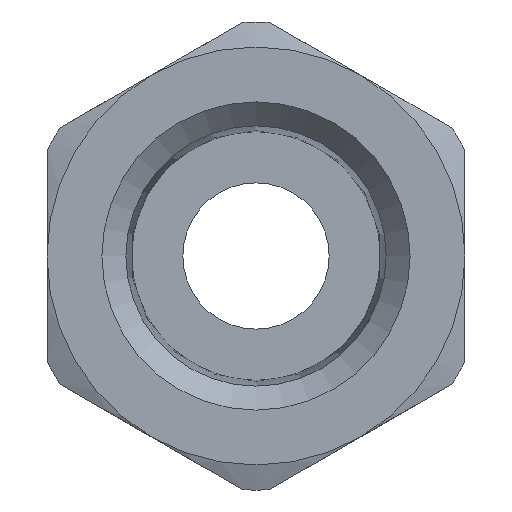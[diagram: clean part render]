
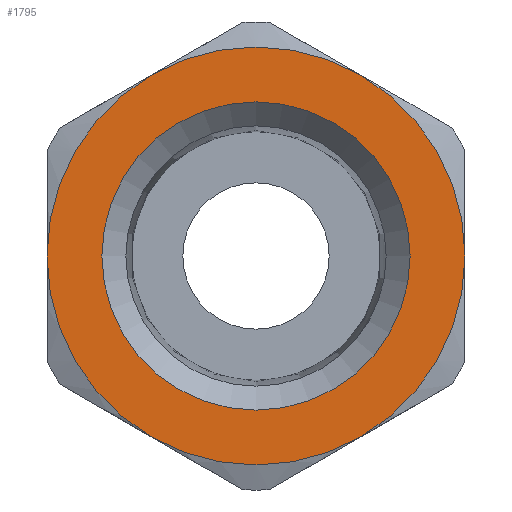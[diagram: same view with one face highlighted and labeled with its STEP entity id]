
A CAD part, front view. The second image highlights one B-rep face of the part: STEP entity #1795.
In plain terms, the highlighted planar face has unit normal (0, -1, 0).
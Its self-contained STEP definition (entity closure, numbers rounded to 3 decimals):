
#791=CARTESIAN_POINT('',(-7.144,0.,0.));
#792=VERTEX_POINT('',#791);
#927=CARTESIAN_POINT('',(-3.572,0.,6.187));
#928=VERTEX_POINT('',#927);
#1063=CARTESIAN_POINT('',(3.572,0.,6.187));
#1064=VERTEX_POINT('',#1063);
#1199=CARTESIAN_POINT('',(7.144,0.,0.));
#1200=VERTEX_POINT('',#1199);
#1335=CARTESIAN_POINT('',(3.572,0.,-6.187));
#1336=VERTEX_POINT('',#1335);
#1470=CARTESIAN_POINT('',(-3.572,0.,-6.187));
#1471=VERTEX_POINT('',#1470);
#1472=CARTESIAN_POINT('',(0.0,0.,0.0));
#1473=DIRECTION('',(0.0,-1.0,0.0));
#1474=DIRECTION('',(0.0,0.0,1.0));
#1475=AXIS2_PLACEMENT_3D('',#1472,#1473,#1474);
#1476=CIRCLE('',#1475,7.144);
#1477=EDGE_CURVE('',#1471,#1336,#1476,.T.);
#1502=CARTESIAN_POINT('',(0.0,0.,0.0));
#1503=DIRECTION('',(0.0,-1.0,0.0));
#1504=DIRECTION('',(0.0,0.0,1.0));
#1505=AXIS2_PLACEMENT_3D('',#1502,#1503,#1504);
#1506=CIRCLE('',#1505,7.144);
#1507=EDGE_CURVE('',#1336,#1200,#1506,.T.);
#1520=CARTESIAN_POINT('',(0.0,0.,0.0));
#1521=DIRECTION('',(0.0,-1.0,0.0));
#1522=DIRECTION('',(0.0,0.0,1.0));
#1523=AXIS2_PLACEMENT_3D('',#1520,#1521,#1522);
#1524=CIRCLE('',#1523,7.144);
#1525=EDGE_CURVE('',#1200,#1064,#1524,.T.);
#1538=CARTESIAN_POINT('',(0.0,0.,0.0));
#1539=DIRECTION('',(0.0,-1.0,0.0));
#1540=DIRECTION('',(0.0,0.0,1.0));
#1541=AXIS2_PLACEMENT_3D('',#1538,#1539,#1540);
#1542=CIRCLE('',#1541,7.144);
#1543=EDGE_CURVE('',#1064,#928,#1542,.T.);
#1556=CARTESIAN_POINT('',(0.0,0.,0.0));
#1557=DIRECTION('',(0.0,-1.0,0.0));
#1558=DIRECTION('',(0.0,0.0,1.0));
#1559=AXIS2_PLACEMENT_3D('',#1556,#1557,#1558);
#1560=CIRCLE('',#1559,7.144);
#1561=EDGE_CURVE('',#928,#792,#1560,.T.);
#1586=CARTESIAN_POINT('',(0.0,0.,0.0));
#1587=DIRECTION('',(0.0,-1.0,0.0));
#1588=DIRECTION('',(0.0,0.0,1.0));
#1589=AXIS2_PLACEMENT_3D('',#1586,#1587,#1588);
#1590=CIRCLE('',#1589,7.144);
#1591=EDGE_CURVE('',#792,#1471,#1590,.T.);
#1747=CARTESIAN_POINT('',(0.,0.,-5.269));
#1748=VERTEX_POINT('',#1747);
#1749=CARTESIAN_POINT('',(0.0,0.,0.0));
#1750=DIRECTION('',(0.0,-1.0,0.0));
#1751=DIRECTION('',(0.0,0.0,1.0));
#1752=AXIS2_PLACEMENT_3D('',#1749,#1750,#1751);
#1753=CIRCLE('',#1752,5.269);
#1754=EDGE_CURVE('',#1748,#1748,#1753,.T.);
#1779=CARTESIAN_POINT('',(2.,0.,0.0));
#1780=DIRECTION('',(0.0,-1.0,0.0));
#1781=DIRECTION('',(0.0,0.0,-1.0));
#1782=AXIS2_PLACEMENT_3D('',#1779,#1780,#1781);
#1783=PLANE('',#1782);
#1784=ORIENTED_EDGE('',*,*,#1507,.T.);
#1785=ORIENTED_EDGE('',*,*,#1525,.T.);
#1786=ORIENTED_EDGE('',*,*,#1543,.T.);
#1787=ORIENTED_EDGE('',*,*,#1561,.T.);
#1788=ORIENTED_EDGE('',*,*,#1591,.T.);
#1789=ORIENTED_EDGE('',*,*,#1477,.T.);
#1790=EDGE_LOOP('',(#1784,#1785,#1786,#1787,#1788,#1789));
#1791=FACE_OUTER_BOUND('',#1790,.T.);
#1792=ORIENTED_EDGE('',*,*,#1754,.F.);
#1793=EDGE_LOOP('',(#1792));
#1794=FACE_BOUND('',#1793,.T.);
#1795=ADVANCED_FACE('',(#1791,#1794),#1783,.T.);
